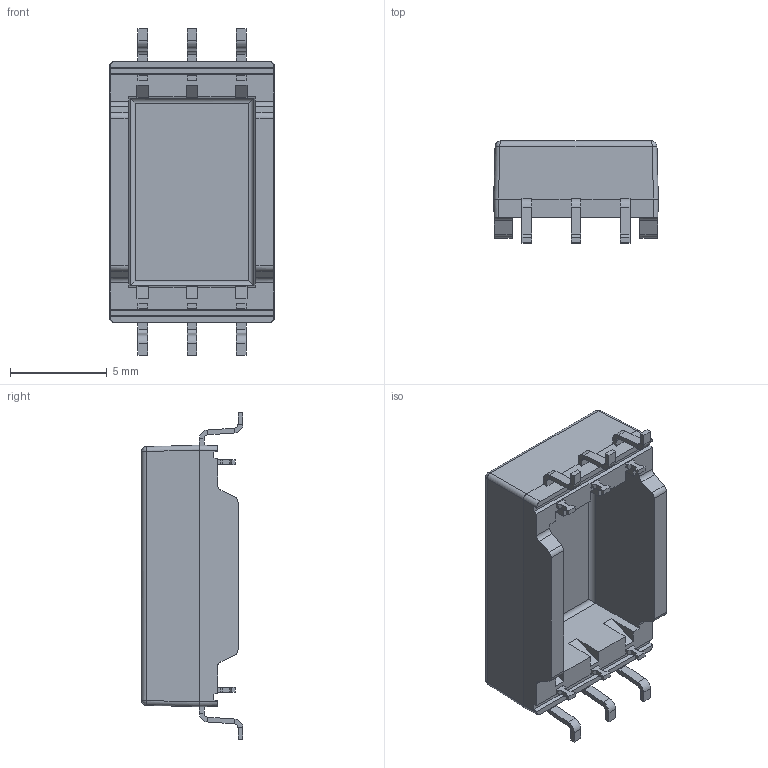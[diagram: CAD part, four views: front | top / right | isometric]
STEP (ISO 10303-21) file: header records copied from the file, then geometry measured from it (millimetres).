
FILE_DESCRIPTION (( 'STEP AP203' ), '1' );
FILE_NAME ('S068xx.STEP', '2025-07-02T09:56:07', ( '' ), ( '' ), 'SwSTEP 2.0', 'SolidWorks 2022', '' );
FILE_SCHEMA (( 'CONFIG_CONTROL_DESIGN' ));
Length unit declared in the file: millimetre
Products named in the file (3): S068xx; S068xx Pin; S068xx Case
Assembly tree (7 placements, depth 2):
  S068xx
    S068xx Case
    S068xx Pin  x6
Bounding box: 8.5 x 5.25 x 16.84 mm (x, y, z)
Volume: 252.4 mm3; surface area: 604.5 mm2
Topology: 7 solids, 7 shells, 355 faces, 862 edges, 512 vertices
Faces by surface type: plane 277, cylinder 74, bspline 4
Entity records: 5565 total; most frequent: CARTESIAN_POINT 1109, ORIENTED_EDGE 876, DIRECTION 788, EDGE_CURVE 438, LINE 358, VECTOR 358, VERTEX_POINT 272, AXIS2_PLACEMENT_3D 215
